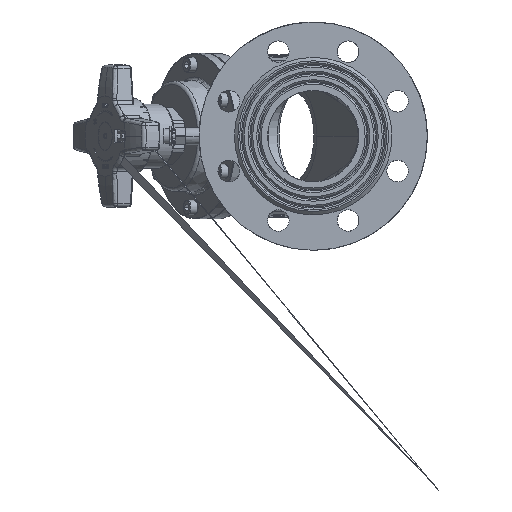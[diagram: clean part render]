
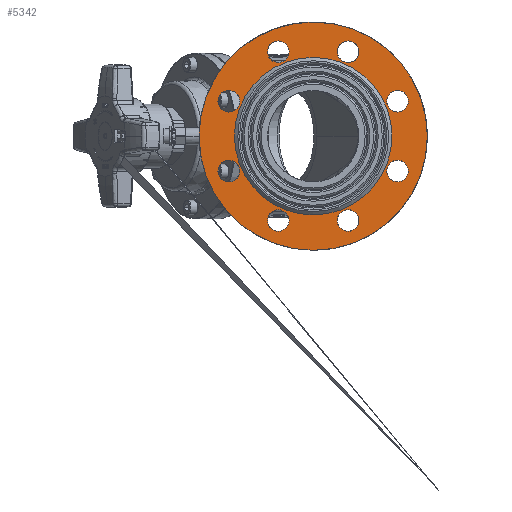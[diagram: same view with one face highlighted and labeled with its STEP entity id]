
A CAD part, left-side view. The second image highlights one B-rep face of the part: STEP entity #5342.
In plain terms, the highlighted planar face has unit normal (-1, 0, 0).
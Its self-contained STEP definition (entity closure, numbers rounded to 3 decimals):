
#5342=ADVANCED_FACE('',(#33970,#33972,#33974,#33976,#33978,#33980,#33982,#33984,
#33986,#33988),#33990,.T.);
#33970=FACE_BOUND('',#33971,.T.);
#33971=EDGE_LOOP('',(#72882));
#33972=FACE_BOUND('',#33973,.T.);
#33973=EDGE_LOOP('',(#72883));
#33974=FACE_BOUND('',#33975,.T.);
#33975=EDGE_LOOP('',(#72884,#72885));
#33976=FACE_BOUND('',#33977,.T.);
#33977=EDGE_LOOP('',(#72886,#72887));
#33978=FACE_BOUND('',#33979,.T.);
#33979=EDGE_LOOP('',(#72888,#72889));
#33980=FACE_BOUND('',#33981,.T.);
#33981=EDGE_LOOP('',(#72890,#72891));
#33982=FACE_BOUND('',#33983,.T.);
#33983=EDGE_LOOP('',(#72892,#72893));
#33984=FACE_BOUND('',#33985,.T.);
#33985=EDGE_LOOP('',(#72894,#72895));
#33986=FACE_BOUND('',#33987,.T.);
#33987=EDGE_LOOP('',(#72896,#72897));
#33988=FACE_BOUND('',#33989,.T.);
#33989=EDGE_LOOP('',(#72898,#72899));
#33990=PLANE('',#33991);
#33991=AXIS2_PLACEMENT_3D('',#33992,#33993,#33994);
#33992=CARTESIAN_POINT('',(27.415,41.01,310.));
#33993=DIRECTION('',(-1.,0.,0.));
#33994=DIRECTION('',(0.,0.,1.));
#72882=ORIENTED_EDGE('',*,*,#80384,.F.);
#72883=ORIENTED_EDGE('',*,*,#80385,.T.);
#72884=ORIENTED_EDGE('',*,*,#80320,.T.);
#72885=ORIENTED_EDGE('',*,*,#80317,.T.);
#72886=ORIENTED_EDGE('',*,*,#80312,.T.);
#72887=ORIENTED_EDGE('',*,*,#80309,.T.);
#72888=ORIENTED_EDGE('',*,*,#80304,.T.);
#72889=ORIENTED_EDGE('',*,*,#80301,.T.);
#72890=ORIENTED_EDGE('',*,*,#80322,.T.);
#72891=ORIENTED_EDGE('',*,*,#80324,.T.);
#72892=ORIENTED_EDGE('',*,*,#80328,.T.);
#72893=ORIENTED_EDGE('',*,*,#80325,.T.);
#72894=ORIENTED_EDGE('',*,*,#80336,.T.);
#72895=ORIENTED_EDGE('',*,*,#80333,.T.);
#72896=ORIENTED_EDGE('',*,*,#80332,.T.);
#72897=ORIENTED_EDGE('',*,*,#80329,.T.);
#72898=ORIENTED_EDGE('',*,*,#80316,.T.);
#72899=ORIENTED_EDGE('',*,*,#80313,.T.);
#80301=EDGE_CURVE('',#85689,#85690,#85691,.T.);
#80304=EDGE_CURVE('',#85690,#85689,#85694,.T.);
#80309=EDGE_CURVE('',#85702,#85703,#85704,.T.);
#80312=EDGE_CURVE('',#85703,#85702,#85707,.T.);
#80313=EDGE_CURVE('',#85708,#85709,#85710,.T.);
#80316=EDGE_CURVE('',#85709,#85708,#85713,.T.);
#80317=EDGE_CURVE('',#85714,#85715,#85716,.T.);
#80320=EDGE_CURVE('',#85715,#85714,#85719,.T.);
#80322=EDGE_CURVE('',#85722,#85720,#85723,.T.);
#80324=EDGE_CURVE('',#85720,#85722,#85725,.T.);
#80325=EDGE_CURVE('',#85726,#85727,#85728,.T.);
#80328=EDGE_CURVE('',#85727,#85726,#85731,.T.);
#80329=EDGE_CURVE('',#85732,#85733,#85734,.T.);
#80332=EDGE_CURVE('',#85733,#85732,#85737,.T.);
#80333=EDGE_CURVE('',#85738,#85739,#85740,.T.);
#80336=EDGE_CURVE('',#85739,#85738,#85743,.T.);
#80384=EDGE_CURVE('',#85815,#85815,#85816,.T.);
#80385=EDGE_CURVE('',#85817,#85817,#85818,.T.);
#85689=VERTEX_POINT('',#119262);
#85690=VERTEX_POINT('',#119263);
#85691=CIRCLE('',#119264,9.5);
#85694=CIRCLE('',#119274,9.5);
#85702=VERTEX_POINT('',#119370);
#85703=VERTEX_POINT('',#119371);
#85704=CIRCLE('',#119372,9.5);
#85707=CIRCLE('',#119382,9.5);
#85708=VERTEX_POINT('',#119386);
#85709=VERTEX_POINT('',#119387);
#85710=CIRCLE('',#119388,9.5);
#85713=CIRCLE('',#119398,9.5);
#85714=VERTEX_POINT('',#119402);
#85715=VERTEX_POINT('',#119403);
#85716=CIRCLE('',#119404,9.5);
#85719=CIRCLE('',#119414,9.5);
#85720=VERTEX_POINT('',#119418);
#85722=VERTEX_POINT('',#119422);
#85723=CIRCLE('',#119423,9.5);
#85725=CIRCLE('',#119430,9.5);
#85726=VERTEX_POINT('',#119434);
#85727=VERTEX_POINT('',#119435);
#85728=CIRCLE('',#119436,9.5);
#85731=CIRCLE('',#119446,9.5);
#85732=VERTEX_POINT('',#119450);
#85733=VERTEX_POINT('',#119451);
#85734=CIRCLE('',#119452,9.5);
#85737=CIRCLE('',#119462,9.5);
#85738=VERTEX_POINT('',#119466);
#85739=VERTEX_POINT('',#119467);
#85740=CIRCLE('',#119468,9.5);
#85743=CIRCLE('',#119478,9.5);
#85815=VERTEX_POINT('',#122475);
#85816=CIRCLE('',#122476,100.);
#85817=VERTEX_POINT('',#122480);
#85818=CIRCLE('',#122481,69.);
#119262=CARTESIAN_POINT('',(27.415,183.92,350.115));
#119263=CARTESIAN_POINT('',(27.415,183.92,331.115));
#119264=AXIS2_PLACEMENT_3D('',#119265,#119266,#119267);
#119265=CARTESIAN_POINT('',(27.415,183.92,340.615));
#119266=DIRECTION('',(1.,0.,0.));
#119267=DIRECTION('',(0.,0.,1.));
#119274=AXIS2_PLACEMENT_3D('',#119275,#119276,#119277);
#119275=CARTESIAN_POINT('',(27.415,183.92,340.615));
#119276=DIRECTION('',(1.,0.,0.));
#119277=DIRECTION('',(0.,0.,-1.));
#119370=CARTESIAN_POINT('',(27.415,140.625,393.41));
#119371=CARTESIAN_POINT('',(27.415,140.625,374.41));
#119372=AXIS2_PLACEMENT_3D('',#119373,#119374,#119375);
#119373=CARTESIAN_POINT('',(27.415,140.625,383.91));
#119374=DIRECTION('',(1.,0.,0.));
#119375=DIRECTION('',(0.,0.,1.));
#119382=AXIS2_PLACEMENT_3D('',#119383,#119384,#119385);
#119383=CARTESIAN_POINT('',(27.415,140.625,383.91));
#119384=DIRECTION('',(1.,0.,0.));
#119385=DIRECTION('',(0.,0.,-1.));
#119386=CARTESIAN_POINT('',(27.415,36.1,350.115));
#119387=CARTESIAN_POINT('',(27.415,36.1,331.115));
#119388=AXIS2_PLACEMENT_3D('',#119389,#119390,#119391);
#119389=CARTESIAN_POINT('',(27.415,36.1,340.615));
#119390=DIRECTION('',(1.,0.,0.));
#119391=DIRECTION('',(0.,0.,1.));
#119398=AXIS2_PLACEMENT_3D('',#119399,#119400,#119401);
#119399=CARTESIAN_POINT('',(27.415,36.1,340.615));
#119400=DIRECTION('',(1.,0.,0.));
#119401=DIRECTION('',(0.,0.,-1.));
#119402=CARTESIAN_POINT('',(27.415,79.395,393.41));
#119403=CARTESIAN_POINT('',(27.415,79.395,374.41));
#119404=AXIS2_PLACEMENT_3D('',#119405,#119406,#119407);
#119405=CARTESIAN_POINT('',(27.415,79.395,383.91));
#119406=DIRECTION('',(1.,0.,0.));
#119407=DIRECTION('',(0.,0.,1.));
#119414=AXIS2_PLACEMENT_3D('',#119415,#119416,#119417);
#119415=CARTESIAN_POINT('',(27.415,79.395,383.91));
#119416=DIRECTION('',(1.,0.,0.));
#119417=DIRECTION('',(0.,0.,-1.));
#119418=CARTESIAN_POINT('',(27.415,183.92,288.885));
#119422=CARTESIAN_POINT('',(27.415,183.92,269.885));
#119423=AXIS2_PLACEMENT_3D('',#119424,#119425,#119426);
#119424=CARTESIAN_POINT('',(27.415,183.92,279.385));
#119425=DIRECTION('',(1.,0.,0.));
#119426=DIRECTION('',(0.,0.,-1.));
#119430=AXIS2_PLACEMENT_3D('',#119431,#119432,#119433);
#119431=CARTESIAN_POINT('',(27.415,183.92,279.385));
#119432=DIRECTION('',(1.,0.,0.));
#119433=DIRECTION('',(0.,0.,1.));
#119434=CARTESIAN_POINT('',(27.415,140.625,245.59));
#119435=CARTESIAN_POINT('',(27.415,140.625,226.59));
#119436=AXIS2_PLACEMENT_3D('',#119437,#119438,#119439);
#119437=CARTESIAN_POINT('',(27.415,140.625,236.09));
#119438=DIRECTION('',(1.,0.,0.));
#119439=DIRECTION('',(0.,0.,1.));
#119446=AXIS2_PLACEMENT_3D('',#119447,#119448,#119449);
#119447=CARTESIAN_POINT('',(27.415,140.625,236.09));
#119448=DIRECTION('',(1.,0.,0.));
#119449=DIRECTION('',(0.,0.,-1.));
#119450=CARTESIAN_POINT('',(27.415,36.1,288.885));
#119451=CARTESIAN_POINT('',(27.415,36.1,269.885));
#119452=AXIS2_PLACEMENT_3D('',#119453,#119454,#119455);
#119453=CARTESIAN_POINT('',(27.415,36.1,279.385));
#119454=DIRECTION('',(1.,0.,0.));
#119455=DIRECTION('',(0.,0.,1.));
#119462=AXIS2_PLACEMENT_3D('',#119463,#119464,#119465);
#119463=CARTESIAN_POINT('',(27.415,36.1,279.385));
#119464=DIRECTION('',(1.,0.,0.));
#119465=DIRECTION('',(0.,0.,-1.));
#119466=CARTESIAN_POINT('',(27.415,79.395,245.59));
#119467=CARTESIAN_POINT('',(27.415,79.395,226.59));
#119468=AXIS2_PLACEMENT_3D('',#119469,#119470,#119471);
#119469=CARTESIAN_POINT('',(27.415,79.395,236.09));
#119470=DIRECTION('',(1.,0.,0.));
#119471=DIRECTION('',(0.,0.,1.));
#119478=AXIS2_PLACEMENT_3D('',#119479,#119480,#119481);
#119479=CARTESIAN_POINT('',(27.415,79.395,236.09));
#119480=DIRECTION('',(1.,0.,0.));
#119481=DIRECTION('',(0.,0.,-1.));
#122475=CARTESIAN_POINT('',(27.415,110.01,210.));
#122476=AXIS2_PLACEMENT_3D('',#122477,#122478,#122479);
#122477=CARTESIAN_POINT('',(27.415,110.01,310.));
#122478=DIRECTION('',(1.,0.,0.));
#122479=DIRECTION('',(0.,0.,1.));
#122480=CARTESIAN_POINT('',(27.415,110.01,379.));
#122481=AXIS2_PLACEMENT_3D('',#122482,#122483,#122484);
#122482=CARTESIAN_POINT('',(27.415,110.01,310.));
#122483=DIRECTION('',(1.,0.,0.));
#122484=DIRECTION('',(0.,0.,1.));
